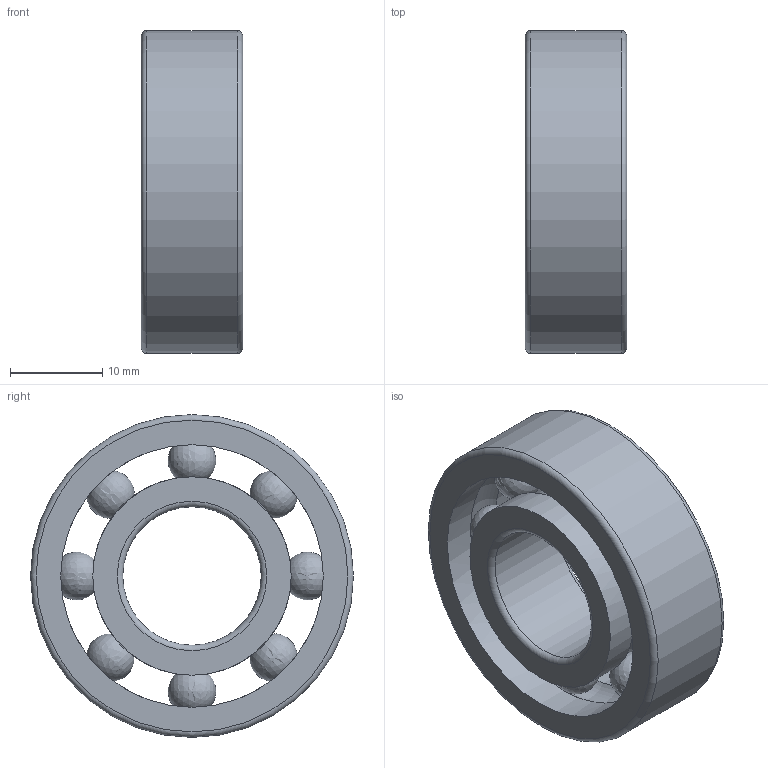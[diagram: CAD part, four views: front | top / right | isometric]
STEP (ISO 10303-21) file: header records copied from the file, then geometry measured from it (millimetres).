
FILE_DESCRIPTION(/* description */ ('깊은 그루브 볼 베어링'),/* implementation_level */ '2;1');
FILE_NAME(/* name */ '',/* time_stamp */ '2025-05-27T17:28:45+09:00',/* author */ ('jhkim'),/* organization */ (''),/* preprocessor_version */ 'ST-DEVELOPER v20.1',/* originating_system */ 'Autodesk Inventor 2026',/* authorisation */ '');
FILE_SCHEMA (('AUTOMOTIVE_DESIGN { 1 0 10303 214 3 1 1 }'));
Length unit declared in the file: millimetre
Products named in the file (1): 깊은 홈 볼 베어링 
6202
Bounding box: 11 x 35 x 35 mm (x, y, z)
Volume: 5836.2 mm3; surface area: 5155.8 mm2
Topology: 10 solids, 10 shells, 38 faces, 98 edges, 64 vertices
Faces by surface type: torus 20, sphere 8, cylinder 6, plane 4
Full cylindrical faces by diameter (mm): 15 x1, 21.52 x2, 28.48 x2, 35 x1
Entity records: 1392 total; most frequent: DIRECTION 268, CARTESIAN_POINT 233, ORIENTED_EDGE 196, AXIS2_PLACEMENT_3D 131, EDGE_CURVE 98, VERTEX_POINT 96, CIRCLE 92, EDGE_LOOP 58
